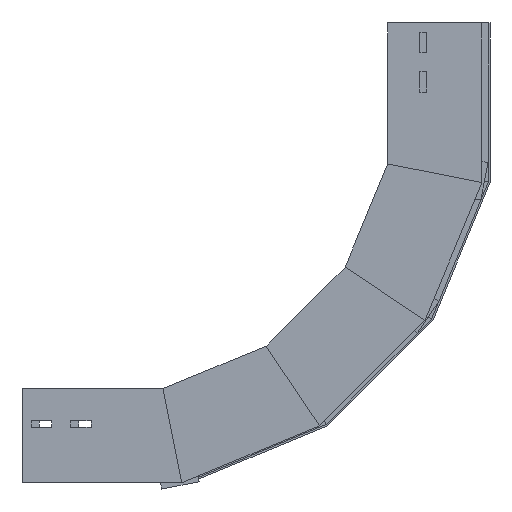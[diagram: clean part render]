
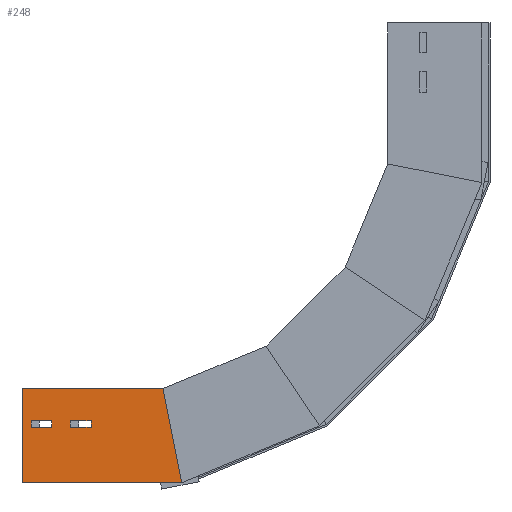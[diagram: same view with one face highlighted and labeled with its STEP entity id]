
A CAD part, left-side view. The second image highlights one B-rep face of the part: STEP entity #248.
In plain terms, the highlighted planar face has unit normal (-1, 0, 0) as drawn and (1, 0, 0) by its records, which use the part's own axes.
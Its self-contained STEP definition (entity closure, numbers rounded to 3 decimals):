
#14 = CARTESIAN_POINT ( 'NONE',  ( 0., 100., 0. ) ) ;
#17 = CARTESIAN_POINT ( 'NONE',  ( 0., 59., -51.505 ) ) ;
#19 = VECTOR ( 'NONE', #1333, 1000. ) ;
#45 = VECTOR ( 'NONE', #483, 1000. ) ;
#63 = CARTESIAN_POINT ( 'NONE',  ( 0., 0., 0. ) ) ;
#77 = ORIENTED_EDGE ( 'NONE', *, *, #169, .T. ) ;
#161 = CARTESIAN_POINT ( 'NONE',  ( 0., 66., -31.835 ) ) ;
#169 = EDGE_CURVE ( 'NONE', #504, #1166, #1122, .T. ) ;
#183 = ORIENTED_EDGE ( 'NONE', *, *, #497, .F. ) ;
#188 = CARTESIAN_POINT ( 'NONE',  ( 0., 59., -31.835 ) ) ;
#202 = EDGE_CURVE ( 'NONE', #1555, #1173, #919, .T. ) ;
#204 = DIRECTION ( 'NONE',  ( 0., 0., 1. ) ) ;
#217 = CARTESIAN_POINT ( 'NONE',  ( 0., 0., -169.6 ) ) ;
#248 = ADVANCED_FACE ( 'NONE', ( #759, #358, #1347 ), #1531, .F. ) ;
#324 = ORIENTED_EDGE ( 'NONE', *, *, #753, .T. ) ;
#331 = VERTEX_POINT ( 'NONE', #1685 ) ;
#343 = EDGE_CURVE ( 'NONE', #331, #1417, #1425, .T. ) ;
#350 = VECTOR ( 'NONE', #1065, 1000. ) ;
#358 = FACE_OUTER_BOUND ( 'NONE', #1581, .T. ) ;
#379 = ORIENTED_EDGE ( 'NONE', *, *, #1540, .T. ) ;
#388 = EDGE_LOOP ( 'NONE', ( #1438, #652, #379, #324 ) ) ;
#412 = VECTOR ( 'NONE', #1000, 1000. ) ;
#430 = VECTOR ( 'NONE', #1124, 1000. ) ;
#472 = LINE ( 'NONE', #1629, #350 ) ;
#483 = DIRECTION ( 'NONE',  ( 0., 0., -1. ) ) ;
#490 = AXIS2_PLACEMENT_3D ( 'NONE', #63, #1654, #204 ) ;
#497 = EDGE_CURVE ( 'NONE', #1543, #908, #1738, .T. ) ;
#498 = CARTESIAN_POINT ( 'NONE',  ( 0., 66., -9.835 ) ) ;
#504 = VERTEX_POINT ( 'NONE', #161 ) ;
#555 = VECTOR ( 'NONE', #975, 1000. ) ;
#598 = ORIENTED_EDGE ( 'NONE', *, *, #343, .T. ) ;
#613 = VERTEX_POINT ( 'NONE', #17 ) ;
#646 = VECTOR ( 'NONE', #1598, 1000. ) ;
#652 = ORIENTED_EDGE ( 'NONE', *, *, #202, .T. ) ;
#687 = DIRECTION ( 'NONE',  ( 0., 0., 1. ) ) ;
#696 = CARTESIAN_POINT ( 'NONE',  ( 0., 66., -31.835 ) ) ;
#708 = CARTESIAN_POINT ( 'NONE',  ( 0., 59., -9.835 ) ) ;
#711 = VECTOR ( 'NONE', #837, 1000. ) ;
#753 = EDGE_CURVE ( 'NONE', #1529, #613, #472, .T. ) ;
#758 = ORIENTED_EDGE ( 'NONE', *, *, #1220, .T. ) ;
#759 = FACE_BOUND ( 'NONE', #388, .T. ) ;
#770 = DIRECTION ( 'NONE',  ( 0., -1., 0. ) ) ;
#796 = VECTOR ( 'NONE', #687, 1000. ) ;
#825 = LINE ( 'NONE', #941, #1210 ) ;
#837 = DIRECTION ( 'NONE',  ( 0., 1., 0. ) ) ;
#844 = EDGE_CURVE ( 'NONE', #1234, #963, #1091, .T. ) ;
#865 = VECTOR ( 'NONE', #770, 1000. ) ;
#904 = EDGE_CURVE ( 'NONE', #613, #1555, #825, .T. ) ;
#908 = VERTEX_POINT ( 'NONE', #217 ) ;
#919 = LINE ( 'NONE', #1797, #45 ) ;
#941 = CARTESIAN_POINT ( 'NONE',  ( 0., 66., -51.505 ) ) ;
#956 = LINE ( 'NONE', #1276, #555 ) ;
#958 = VECTOR ( 'NONE', #1089, 1000. ) ;
#963 = VERTEX_POINT ( 'NONE', #14 ) ;
#966 = CARTESIAN_POINT ( 'NONE',  ( 0., 66., -9.835 ) ) ;
#971 = CARTESIAN_POINT ( 'NONE',  ( 0., 0., 0. ) ) ;
#975 = DIRECTION ( 'NONE',  ( 0., 0., -1. ) ) ;
#1000 = DIRECTION ( 'NONE',  ( 0., -0.981, -0.195 ) ) ;
#1065 = DIRECTION ( 'NONE',  ( 0., 0., 1. ) ) ;
#1086 = ORIENTED_EDGE ( 'NONE', *, *, #1838, .T. ) ;
#1089 = DIRECTION ( 'NONE',  ( 0., 0., -1. ) ) ;
#1091 = LINE ( 'NONE', #971, #711 ) ;
#1122 = LINE ( 'NONE', #696, #865 ) ;
#1124 = DIRECTION ( 'NONE',  ( 0., 1., 0. ) ) ;
#1166 = VERTEX_POINT ( 'NONE', #188 ) ;
#1169 = EDGE_CURVE ( 'NONE', #963, #1543, #1204, .T. ) ;
#1173 = VERTEX_POINT ( 'NONE', #1768 ) ;
#1204 = LINE ( 'NONE', #1214, #19 ) ;
#1210 = VECTOR ( 'NONE', #1536, 1000. ) ;
#1214 = CARTESIAN_POINT ( 'NONE',  ( 0., 100., 0. ) ) ;
#1220 = EDGE_CURVE ( 'NONE', #1166, #331, #1584, .T. ) ;
#1234 = VERTEX_POINT ( 'NONE', #1441 ) ;
#1276 = CARTESIAN_POINT ( 'NONE',  ( 0., 0., 0. ) ) ;
#1333 = DIRECTION ( 'NONE',  ( 0., 0., -1. ) ) ;
#1347 = FACE_BOUND ( 'NONE', #1461, .T. ) ;
#1390 = LINE ( 'NONE', #1526, #958 ) ;
#1401 = LINE ( 'NONE', #1430, #646 ) ;
#1417 = VERTEX_POINT ( 'NONE', #498 ) ;
#1425 = LINE ( 'NONE', #966, #430 ) ;
#1430 = CARTESIAN_POINT ( 'NONE',  ( 0., 66., -73.505 ) ) ;
#1437 = CARTESIAN_POINT ( 'NONE',  ( 0., 66., -51.505 ) ) ;
#1438 = ORIENTED_EDGE ( 'NONE', *, *, #904, .T. ) ;
#1441 = CARTESIAN_POINT ( 'NONE',  ( 0., 0., 0. ) ) ;
#1447 = CARTESIAN_POINT ( 'NONE',  ( 0., 100., -149.709 ) ) ;
#1461 = EDGE_LOOP ( 'NONE', ( #598, #1771, #77, #758 ) ) ;
#1470 = ORIENTED_EDGE ( 'NONE', *, *, #1169, .F. ) ;
#1494 = ORIENTED_EDGE ( 'NONE', *, *, #844, .F. ) ;
#1507 = EDGE_CURVE ( 'NONE', #1417, #504, #1390, .T. ) ;
#1526 = CARTESIAN_POINT ( 'NONE',  ( 0., 66., -9.835 ) ) ;
#1529 = VERTEX_POINT ( 'NONE', #1671 ) ;
#1531 = PLANE ( 'NONE',  #490 ) ;
#1536 = DIRECTION ( 'NONE',  ( 0., 1., 0. ) ) ;
#1540 = EDGE_CURVE ( 'NONE', #1173, #1529, #1401, .T. ) ;
#1543 = VERTEX_POINT ( 'NONE', #1447 ) ;
#1555 = VERTEX_POINT ( 'NONE', #1437 ) ;
#1581 = EDGE_LOOP ( 'NONE', ( #1470, #1494, #1086, #183 ) ) ;
#1584 = LINE ( 'NONE', #708, #796 ) ;
#1598 = DIRECTION ( 'NONE',  ( 0., -1., 0. ) ) ;
#1629 = CARTESIAN_POINT ( 'NONE',  ( 0., 59., -51.505 ) ) ;
#1654 = DIRECTION ( 'NONE',  ( -1., 0., 0. ) ) ;
#1671 = CARTESIAN_POINT ( 'NONE',  ( 0., 59., -73.505 ) ) ;
#1685 = CARTESIAN_POINT ( 'NONE',  ( 0., 59., -9.835 ) ) ;
#1725 = CARTESIAN_POINT ( 'NONE',  ( 0., 32.452, -163.145 ) ) ;
#1738 = LINE ( 'NONE', #1725, #412 ) ;
#1768 = CARTESIAN_POINT ( 'NONE',  ( 0., 66., -73.505 ) ) ;
#1771 = ORIENTED_EDGE ( 'NONE', *, *, #1507, .T. ) ;
#1797 = CARTESIAN_POINT ( 'NONE',  ( 0., 66., -51.505 ) ) ;
#1838 = EDGE_CURVE ( 'NONE', #1234, #908, #956, .T. ) ;
